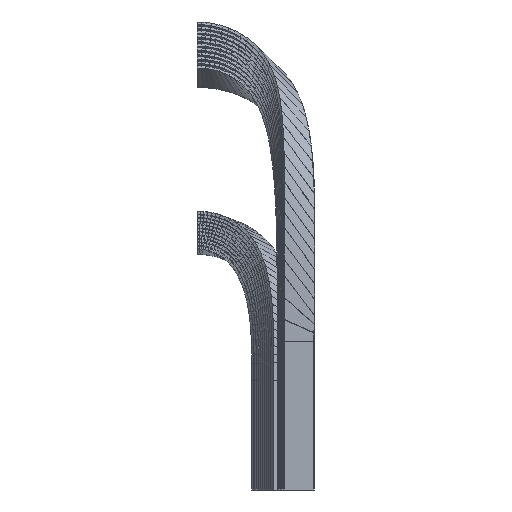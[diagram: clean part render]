
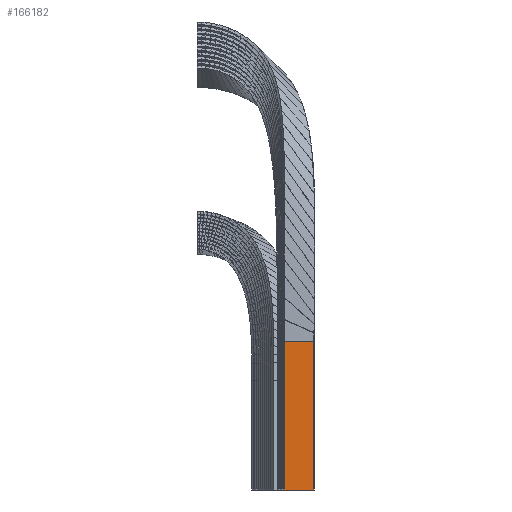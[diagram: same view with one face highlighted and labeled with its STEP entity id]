
A CAD part, front view. The second image highlights one B-rep face of the part: STEP entity #166182.
In plain terms, the highlighted free-form (B-spline) face has degree [1, 1] with [2, 2] control points.
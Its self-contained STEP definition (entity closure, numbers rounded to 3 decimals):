
#163090 = B_SPLINE_SURFACE_WITH_KNOTS('',1,1,(
    (#163091,#163092)
    ,(#163093,#163094
    )),.UNSPECIFIED.,.F.,.F.,.F.,(2,2),(2,2),(0.,75.633),(0.,1.
    ),.PIECEWISE_BEZIER_KNOTS.);
#163091 = CARTESIAN_POINT('',(44.185,1.871,0.));
#163092 = CARTESIAN_POINT('',(44.2,0.249,0.));
#163093 = CARTESIAN_POINT('',(44.185,1.871,
    75.632));
#163094 = CARTESIAN_POINT('',(44.2,0.249,
    75.633));
#163114 = VERTEX_POINT('',#163115);
#163115 = CARTESIAN_POINT('',(44.2,0.249,
    75.633));
#163144 = EDGE_CURVE('',#163145,#163114,#163147,.T.);
#163145 = VERTEX_POINT('',#163146);
#163146 = CARTESIAN_POINT('',(44.2,0.249,0.));
#163147 = SURFACE_CURVE('',#163148,(#163152,#163159),.PCURVE_S1.);
#163148 = LINE('',#163149,#163150);
#163149 = CARTESIAN_POINT('',(44.2,0.249,0.));
#163150 = VECTOR('',#163151,1.);
#163151 = DIRECTION('',(0.,0.,1.));
#163152 = PCURVE('',#163090,#163153);
#163153 = DEFINITIONAL_REPRESENTATION('',(#163154),#163158);
#163154 = LINE('',#163155,#163156);
#163155 = CARTESIAN_POINT('',(0.,1.));
#163156 = VECTOR('',#163157,1.);
#163157 = DIRECTION('',(1.,0.));
#163158 = ( GEOMETRIC_REPRESENTATION_CONTEXT(2) 
PARAMETRIC_REPRESENTATION_CONTEXT() REPRESENTATION_CONTEXT('2D SPACE',''
  ) );
#163159 = PCURVE('',#163160,#163165);
#163160 = B_SPLINE_SURFACE_WITH_KNOTS('',1,1,(
    (#163161,#163162)
    ,(#163163,#163164
    )),.UNSPECIFIED.,.F.,.F.,.F.,(2,2),(2,2),(0.,75.633),(0.,1.
    ),.PIECEWISE_BEZIER_KNOTS.);
#163161 = CARTESIAN_POINT('',(44.2,0.249,0.));
#163162 = CARTESIAN_POINT('',(59.598,0.252,0.));
#163163 = CARTESIAN_POINT('',(44.2,0.249,
    75.633));
#163164 = CARTESIAN_POINT('',(59.598,0.252,
    75.631));
#163165 = DEFINITIONAL_REPRESENTATION('',(#163166),#163170);
#163166 = LINE('',#163167,#163168);
#163167 = CARTESIAN_POINT('',(0.,0.));
#163168 = VECTOR('',#163169,1.);
#163169 = DIRECTION('',(1.,0.));
#163170 = ( GEOMETRIC_REPRESENTATION_CONTEXT(2) 
PARAMETRIC_REPRESENTATION_CONTEXT() REPRESENTATION_CONTEXT('2D SPACE',''
  ) );
#163185 = PLANE('',#163186);
#163186 = AXIS2_PLACEMENT_3D('',#163187,#163188,#163189);
#163187 = CARTESIAN_POINT('',(51.945,1.121,0.));
#163188 = DIRECTION('',(0.,0.,1.));
#163189 = DIRECTION('',(1.,0.,-0.));
#163277 = B_SPLINE_SURFACE_WITH_KNOTS('',3,1,(
    (#163278,#163279)
    ,(#163280,#163281)
    ,(#163282,#163283)
    ,(#163284,#163285
    )),.UNSPECIFIED.,.F.,.F.,.F.,(4,4),(2,2),(0.,11.217),(0.,1.
    ),.PIECEWISE_BEZIER_KNOTS.);
#163278 = CARTESIAN_POINT('',(44.2,0.249,
    75.633));
#163279 = CARTESIAN_POINT('',(59.598,0.252,
    75.631));
#163280 = CARTESIAN_POINT('',(44.2,0.249,
    79.389));
#163281 = CARTESIAN_POINT('',(59.598,0.252,
    77.14));
#163282 = CARTESIAN_POINT('',(44.219,0.271,
    83.104));
#163283 = CARTESIAN_POINT('',(59.65,0.28,
    78.567));
#163284 = CARTESIAN_POINT('',(44.229,0.272,
    86.85));
#163285 = CARTESIAN_POINT('',(59.683,0.295,
    80.028));
#166182 = ADVANCED_FACE('',(#166183),#163160,.F.);
#166183 = FACE_BOUND('',#166184,.F.);
#166184 = EDGE_LOOP('',(#166185,#166186,#166208,#166234));
#166185 = ORIENTED_EDGE('',*,*,#163144,.T.);
#166186 = ORIENTED_EDGE('',*,*,#166187,.T.);
#166187 = EDGE_CURVE('',#163114,#166188,#166190,.T.);
#166188 = VERTEX_POINT('',#166189);
#166189 = CARTESIAN_POINT('',(59.598,0.252,
    75.631));
#166190 = SURFACE_CURVE('',#166191,(#166194,#166201),.PCURVE_S1.);
#166191 = B_SPLINE_CURVE_WITH_KNOTS('',1,(#166192,#166193),
  .UNSPECIFIED.,.F.,.F.,(2,2),(0.,1.),.PIECEWISE_BEZIER_KNOTS.);
#166192 = CARTESIAN_POINT('',(44.2,0.249,
    75.633));
#166193 = CARTESIAN_POINT('',(59.598,0.252,
    75.631));
#166194 = PCURVE('',#163160,#166195);
#166195 = DEFINITIONAL_REPRESENTATION('',(#166196),#166200);
#166196 = LINE('',#166197,#166198);
#166197 = CARTESIAN_POINT('',(75.633,0.));
#166198 = VECTOR('',#166199,1.);
#166199 = DIRECTION('',(0.,1.));
#166200 = ( GEOMETRIC_REPRESENTATION_CONTEXT(2) 
PARAMETRIC_REPRESENTATION_CONTEXT() REPRESENTATION_CONTEXT('2D SPACE',''
  ) );
#166201 = PCURVE('',#163277,#166202);
#166202 = DEFINITIONAL_REPRESENTATION('',(#166203),#166207);
#166203 = LINE('',#166204,#166205);
#166204 = CARTESIAN_POINT('',(0.,0.));
#166205 = VECTOR('',#166206,1.);
#166206 = DIRECTION('',(0.,1.));
#166207 = ( GEOMETRIC_REPRESENTATION_CONTEXT(2) 
PARAMETRIC_REPRESENTATION_CONTEXT() REPRESENTATION_CONTEXT('2D SPACE',''
  ) );
#166208 = ORIENTED_EDGE('',*,*,#166209,.F.);
#166209 = EDGE_CURVE('',#166210,#166188,#166212,.T.);
#166210 = VERTEX_POINT('',#166211);
#166211 = CARTESIAN_POINT('',(59.598,0.252,0.));
#166212 = SURFACE_CURVE('',#166213,(#166217,#166223),.PCURVE_S1.);
#166213 = LINE('',#166214,#166215);
#166214 = CARTESIAN_POINT('',(59.598,0.252,0.));
#166215 = VECTOR('',#166216,1.);
#166216 = DIRECTION('',(0.,0.,1.));
#166217 = PCURVE('',#163160,#166218);
#166218 = DEFINITIONAL_REPRESENTATION('',(#166219),#166222);
#166219 = B_SPLINE_CURVE_WITH_KNOTS('',1,(#166220,#166221),
  .UNSPECIFIED.,.F.,.F.,(2,2),(0.,75.631),
  .PIECEWISE_BEZIER_KNOTS.);
#166220 = CARTESIAN_POINT('',(0.,1.));
#166221 = CARTESIAN_POINT('',(75.633,1.));
#166222 = ( GEOMETRIC_REPRESENTATION_CONTEXT(2) 
PARAMETRIC_REPRESENTATION_CONTEXT() REPRESENTATION_CONTEXT('2D SPACE',''
  ) );
#166223 = PCURVE('',#166224,#166229);
#166224 = B_SPLINE_SURFACE_WITH_KNOTS('',1,1,(
    (#166225,#166226)
    ,(#166227,#166228
    )),.UNSPECIFIED.,.F.,.F.,.F.,(2,2),(2,2),(0.,75.631),(0.,1.
    ),.PIECEWISE_BEZIER_KNOTS.);
#166225 = CARTESIAN_POINT('',(59.598,0.252,0.));
#166226 = CARTESIAN_POINT('',(59.585,2.11,0.));
#166227 = CARTESIAN_POINT('',(59.598,0.252,
    75.631));
#166228 = CARTESIAN_POINT('',(59.585,2.11,
    75.631));
#166229 = DEFINITIONAL_REPRESENTATION('',(#166230),#166233);
#166230 = B_SPLINE_CURVE_WITH_KNOTS('',1,(#166231,#166232),
  .UNSPECIFIED.,.F.,.F.,(2,2),(0.,75.631),
  .PIECEWISE_BEZIER_KNOTS.);
#166231 = CARTESIAN_POINT('',(0.,0.));
#166232 = CARTESIAN_POINT('',(75.631,0.));
#166233 = ( GEOMETRIC_REPRESENTATION_CONTEXT(2) 
PARAMETRIC_REPRESENTATION_CONTEXT() REPRESENTATION_CONTEXT('2D SPACE',''
  ) );
#166234 = ORIENTED_EDGE('',*,*,#166235,.F.);
#166235 = EDGE_CURVE('',#163145,#166210,#166236,.T.);
#166236 = SURFACE_CURVE('',#166237,(#166240,#166247),.PCURVE_S1.);
#166237 = B_SPLINE_CURVE_WITH_KNOTS('',1,(#166238,#166239),
  .UNSPECIFIED.,.F.,.F.,(2,2),(0.,1.),.PIECEWISE_BEZIER_KNOTS.);
#166238 = CARTESIAN_POINT('',(44.2,0.249,0.));
#166239 = CARTESIAN_POINT('',(59.598,0.252,0.));
#166240 = PCURVE('',#163160,#166241);
#166241 = DEFINITIONAL_REPRESENTATION('',(#166242),#166246);
#166242 = LINE('',#166243,#166244);
#166243 = CARTESIAN_POINT('',(0.,0.));
#166244 = VECTOR('',#166245,1.);
#166245 = DIRECTION('',(0.,1.));
#166246 = ( GEOMETRIC_REPRESENTATION_CONTEXT(2) 
PARAMETRIC_REPRESENTATION_CONTEXT() REPRESENTATION_CONTEXT('2D SPACE',''
  ) );
#166247 = PCURVE('',#163185,#166248);
#166248 = DEFINITIONAL_REPRESENTATION('',(#166249),#166252);
#166249 = B_SPLINE_CURVE_WITH_KNOTS('',1,(#166250,#166251),
  .UNSPECIFIED.,.F.,.F.,(2,2),(0.,1.),.PIECEWISE_BEZIER_KNOTS.);
#166250 = CARTESIAN_POINT('',(-7.745,-0.872));
#166251 = CARTESIAN_POINT('',(7.653,-0.869));
#166252 = ( GEOMETRIC_REPRESENTATION_CONTEXT(2) 
PARAMETRIC_REPRESENTATION_CONTEXT() REPRESENTATION_CONTEXT('2D SPACE',''
  ) );
